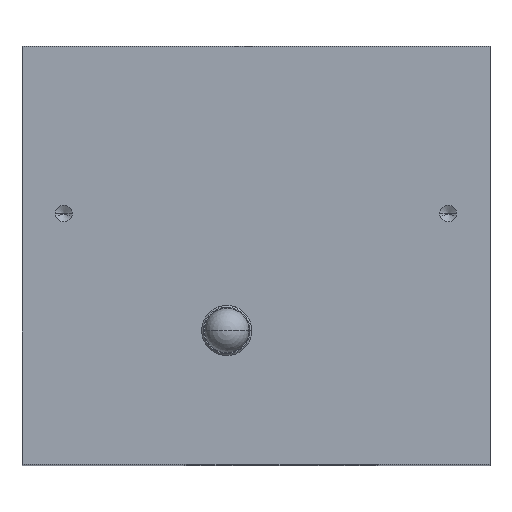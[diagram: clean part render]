
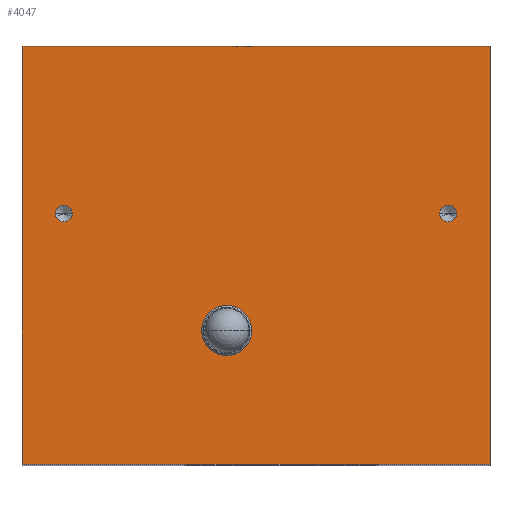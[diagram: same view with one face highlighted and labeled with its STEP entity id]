
A CAD part, top view. The second image highlights one B-rep face of the part: STEP entity #4047.
In plain terms, the highlighted planar face has unit normal (0, 0, 1).
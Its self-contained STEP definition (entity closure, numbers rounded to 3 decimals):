
#59=DIRECTION('',(1.,0.,0.));
#60=VECTOR('',#59,56.);
#61=CARTESIAN_POINT('',(0.,0.,90.));
#62=LINE('',#61,#60);
#302=DIRECTION('',(0.,1.,0.));
#303=VECTOR('',#302,50.);
#304=CARTESIAN_POINT('',(56.,0.,90.));
#305=LINE('',#304,#303);
#341=DIRECTION('',(0.,1.,0.));
#342=VECTOR('',#341,50.);
#343=CARTESIAN_POINT('',(0.,0.,90.));
#344=LINE('',#343,#342);
#348=CARTESIAN_POINT('',(24.5,16.,90.));
#349=DIRECTION('',(0.,0.,1.));
#350=DIRECTION('',(-1.,0.,0.));
#351=AXIS2_PLACEMENT_3D('',#348,#349,#350);
#356=CARTESIAN_POINT('',(24.5,16.,90.));
#357=DIRECTION('',(0.,0.,1.));
#358=DIRECTION('',(1.,0.,0.));
#359=AXIS2_PLACEMENT_3D('',#356,#357,#358);
#364=CARTESIAN_POINT('',(51.,30.,90.));
#365=DIRECTION('',(0.,0.,1.));
#366=DIRECTION('',(-1.,0.,0.));
#367=AXIS2_PLACEMENT_3D('',#364,#365,#366);
#372=CARTESIAN_POINT('',(51.,30.,90.));
#373=DIRECTION('',(0.,0.,1.));
#374=DIRECTION('',(1.,0.,0.));
#375=AXIS2_PLACEMENT_3D('',#372,#373,#374);
#380=CARTESIAN_POINT('',(5.,30.,90.));
#381=DIRECTION('',(0.,0.,1.));
#382=DIRECTION('',(-1.,0.,0.));
#383=AXIS2_PLACEMENT_3D('',#380,#381,#382);
#388=CARTESIAN_POINT('',(5.,30.,90.));
#389=DIRECTION('',(0.,0.,1.));
#390=DIRECTION('',(1.,0.,0.));
#391=AXIS2_PLACEMENT_3D('',#388,#389,#390);
#417=DIRECTION('',(1.,0.,0.));
#418=VECTOR('',#417,56.);
#419=CARTESIAN_POINT('',(0.,50.,90.));
#420=LINE('',#419,#418);
#3463=CARTESIAN_POINT('',(0.,0.,90.));
#3465=VERTEX_POINT('',#3463);
#3466=CARTESIAN_POINT('',(56.,0.,90.));
#3467=VERTEX_POINT('',#3466);
#3471=CARTESIAN_POINT('',(0.,50.,90.));
#3473=VERTEX_POINT('',#3471);
#3474=CARTESIAN_POINT('',(56.,50.,90.));
#3475=VERTEX_POINT('',#3474);
#3660=CARTESIAN_POINT('',(21.5,16.,90.));
#3661=VERTEX_POINT('',#3660);
#3664=CARTESIAN_POINT('',(27.5,16.,90.));
#3665=VERTEX_POINT('',#3664);
#3688=CARTESIAN_POINT('',(50.,30.,90.));
#3689=CARTESIAN_POINT('',(52.,30.,90.));
#3690=VERTEX_POINT('',#3688);
#3691=VERTEX_POINT('',#3689);
#3698=CARTESIAN_POINT('',(4.,30.,90.));
#3699=CARTESIAN_POINT('',(6.,30.,90.));
#3700=VERTEX_POINT('',#3698);
#3701=VERTEX_POINT('',#3699);
#4017=CARTESIAN_POINT('',(0.,0.,90.));
#4018=DIRECTION('',(0.,0.,1.));
#4019=DIRECTION('',(1.,0.,0.));
#4020=AXIS2_PLACEMENT_3D('',#4017,#4018,#4019);
#4021=PLANE('',#4020);
#4022=ORIENTED_EDGE('',*,*,#3839,.F.);
#4023=ORIENTED_EDGE('',*,*,#3870,.T.);
#4025=ORIENTED_EDGE('',*,*,#4024,.T.);
#4026=ORIENTED_EDGE('',*,*,#3985,.F.);
#4027=EDGE_LOOP('',(#4022,#4023,#4025,#4026));
#4028=FACE_OUTER_BOUND('',#4027,.F.);
#4030=ORIENTED_EDGE('',*,*,#4029,.T.);
#4032=ORIENTED_EDGE('',*,*,#4031,.T.);
#4033=EDGE_LOOP('',(#4030,#4032));
#4034=FACE_BOUND('',#4033,.F.);
#4036=ORIENTED_EDGE('',*,*,#4035,.T.);
#4038=ORIENTED_EDGE('',*,*,#4037,.T.);
#4039=EDGE_LOOP('',(#4036,#4038));
#4040=FACE_BOUND('',#4039,.F.);
#4042=ORIENTED_EDGE('',*,*,#4041,.T.);
#4044=ORIENTED_EDGE('',*,*,#4043,.T.);
#4045=EDGE_LOOP('',(#4042,#4044));
#4046=FACE_BOUND('',#4045,.F.);
#352=CIRCLE('',#351,3.);
#360=CIRCLE('',#359,3.);
#368=CIRCLE('',#367,1.);
#376=CIRCLE('',#375,1.);
#384=CIRCLE('',#383,1.);
#392=CIRCLE('',#391,1.);
#3839=EDGE_CURVE('',#3465,#3467,#62,.T.);
#3870=EDGE_CURVE('',#3465,#3473,#344,.T.);
#3985=EDGE_CURVE('',#3467,#3475,#305,.T.);
#4024=EDGE_CURVE('',#3473,#3475,#420,.T.);
#4029=EDGE_CURVE('',#3661,#3665,#352,.T.);
#4031=EDGE_CURVE('',#3665,#3661,#360,.T.);
#4035=EDGE_CURVE('',#3690,#3691,#368,.T.);
#4037=EDGE_CURVE('',#3691,#3690,#376,.T.);
#4041=EDGE_CURVE('',#3700,#3701,#384,.T.);
#4043=EDGE_CURVE('',#3701,#3700,#392,.T.);
#4047=ADVANCED_FACE('',(#4028,#4034,#4040,#4046),#4021,.T.);
